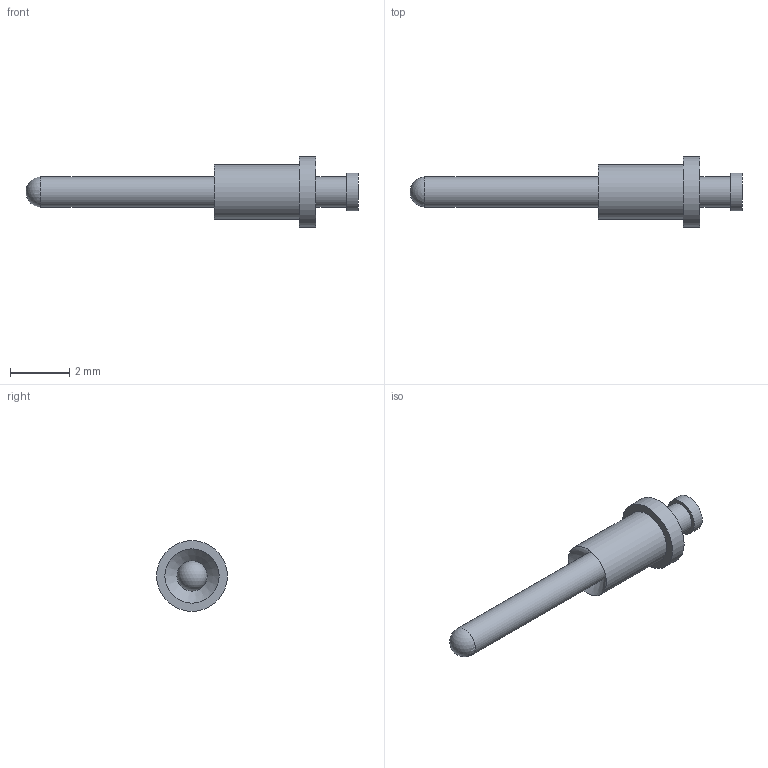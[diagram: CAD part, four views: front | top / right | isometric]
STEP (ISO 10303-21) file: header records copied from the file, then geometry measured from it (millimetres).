
FILE_DESCRIPTION(/* description */ (''),/* implementation_level */ '2;1');
FILE_NAME(/* name */ 'Z:\STEP folder\120-1031-03.ipt.stp',/* time_stamp */ '2016-12-07T10:26:48+00:00',/* author */ ('Paul Karlsons'),/* organization */ (''),/* preprocessor_version */ 'ST-DEVELOPER v15.2',/* originating_system */ 'Autodesk Inventor 2014',/* authorisation */ '');
FILE_SCHEMA (('AUTOMOTIVE_DESIGN { 1 0 10303 214 3 1 1 }'));
Length unit declared in the file: millimetre
Products named in the file (1): 120-1031-03
Bounding box: 11.2 x 2.39 x 2.39 mm (x, y, z)
Volume: 16 mm3; surface area: 56.9 mm2
Topology: 1 solids, 1 shells, 11 faces, 20 edges, 12 vertices
Faces by surface type: cylinder 5, plane 4, sphere 1, cone 1
Full cylindrical faces by diameter (mm): 1.016 x2, 1.27 x1, 1.829 x1, 2.388 x1
Entity records: 235 total; most frequent: DIRECTION 44, CARTESIAN_POINT 32, AXIS2_PLACEMENT_3D 22, EDGE_LOOP 20, ORIENTED_EDGE 20, ADVANCED_FACE 11, FACE_BOUND 10, FACE_OUTER_BOUND 10
